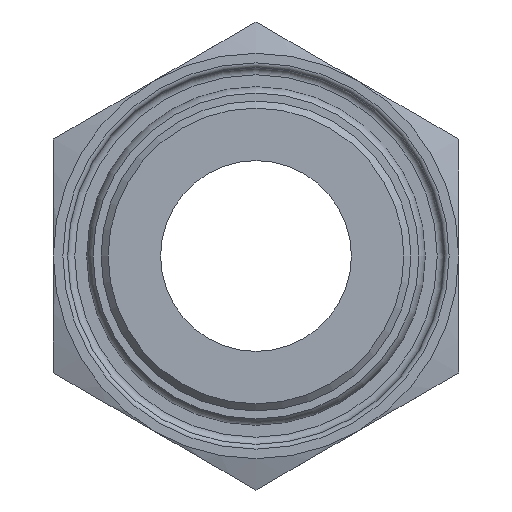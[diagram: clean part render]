
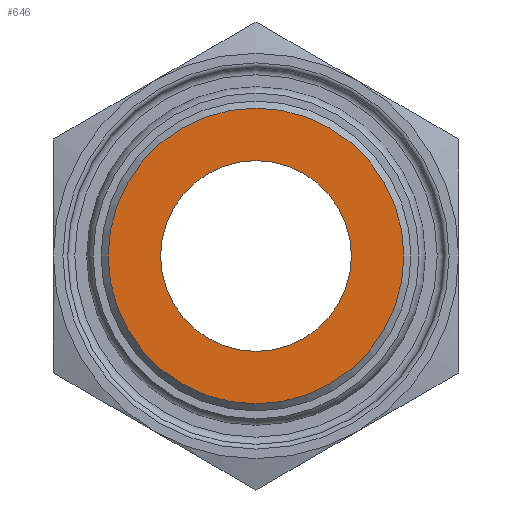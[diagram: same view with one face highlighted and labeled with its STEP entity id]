
A CAD part, front view. The second image highlights one B-rep face of the part: STEP entity #646.
In plain terms, the highlighted planar face has unit normal (0, -1, 0).
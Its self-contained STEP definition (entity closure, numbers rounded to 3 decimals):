
#72=FACE_BOUND('',#166,.T.);
#83=PLANE('',#794);
#116=FACE_OUTER_BOUND('',#165,.T.);
#165=EDGE_LOOP('',(#501));
#166=EDGE_LOOP('',(#502));
#241=CIRCLE('',#753,4.);
#266=CIRCLE('',#789,6.2);
#292=VERTEX_POINT('',#1083);
#313=VERTEX_POINT('',#1144);
#350=EDGE_CURVE('',#292,#292,#241,.T.);
#378=EDGE_CURVE('',#313,#313,#266,.T.);
#501=ORIENTED_EDGE('',*,*,#378,.F.);
#502=ORIENTED_EDGE('',*,*,#350,.T.);
#646=ADVANCED_FACE('',(#116,#72),#83,.T.);
#753=AXIS2_PLACEMENT_3D('',#1085,#862,#863);
#789=AXIS2_PLACEMENT_3D('',#1145,#937,#938);
#794=AXIS2_PLACEMENT_3D('',#1155,#949,#950);
#862=DIRECTION('center_axis',(0.,1.,0.));
#863=DIRECTION('ref_axis',(1.,0.,0.));
#937=DIRECTION('center_axis',(0.,1.,0.));
#938=DIRECTION('ref_axis',(-1.,0.,0.));
#949=DIRECTION('center_axis',(0.,-1.,0.));
#950=DIRECTION('ref_axis',(0.,0.,-1.));
#1083=CARTESIAN_POINT('',(-4.,-7.,0.));
#1085=CARTESIAN_POINT('Origin',(0.,-7.,0.));
#1144=CARTESIAN_POINT('',(6.2,-7.,0.));
#1145=CARTESIAN_POINT('Origin',(0.,-7.,0.));
#1155=CARTESIAN_POINT('Origin',(0.,-7.,0.));
